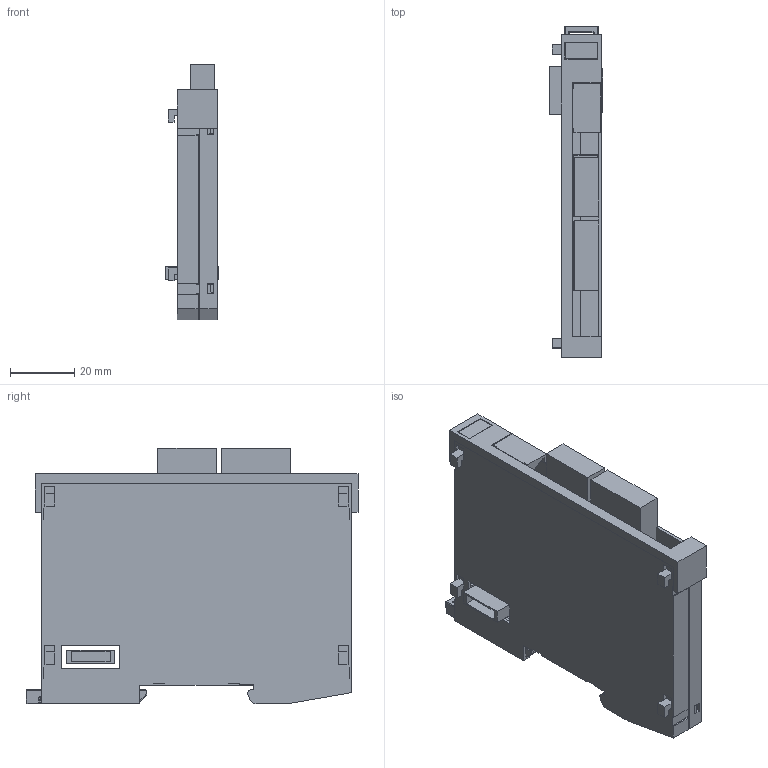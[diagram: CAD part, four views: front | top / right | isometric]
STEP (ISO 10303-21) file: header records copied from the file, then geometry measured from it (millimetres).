
FILE_DESCRIPTION (( 'STEP AP214' ), '1' );
FILE_NAME ('ISE021.STEP', '2015-08-10T14:24:49', ( 'SIGMATEK GmbH & Co KG' ), ( 'SIGMATEK GmbH & Co KG' ), 'SwSTEP 2.0', 'SolidWorks 2013', '' );
FILE_SCHEMA (( 'AUTOMOTIVE_DESIGN' ));
Length unit declared in the file: millimetre
Products named in the file (14): LP_ISE021; Dummy______________ 6pol Buchse; Dummy____________fmc_1.5 6pol; Dummy_4110262152 5pol Buchse; Dummy____________fmc_1.5 5pol 1952296; Dummy_4080225346 Erni Stift; Dummy_4080225345 Erni Buchse; Steckerabdeckung_Var 9; S-Dias Rasthaken 20130313; Schieber_f Suport; S-Dias Schale rechts_f Suport; S-Dias Schale links_f Suport; 4110251342_MF 10-5 MC CABUR_1854510000; ISE021
Assembly tree (13 placements, depth 3):
  ISE021
    4110251342_MF 10-5 MC CABUR_1854510000
    S-Dias Schale links_f Suport
    S-Dias Schale rechts_f Suport
    Schieber_f Suport
    S-Dias Rasthaken 20130313
    LP_ISE021
      Steckerabdeckung_Var 9
      Dummy_4080225345 Erni Buchse
      Dummy_4080225346 Erni Stift
      Dummy____________fmc_1.5 5pol 1952296
      Dummy_4110262152 5pol Buchse
      Dummy____________fmc_1.5 6pol
      Dummy______________ 6pol Buchse
Bounding box: 16.8 x 103.61 x 79.8 mm (x, y, z)
Volume: 28680.6 mm3; surface area: 43462.4 mm2
Topology: 12 solids, 12 shells, 833 faces, 2423 edges, 1604 vertices
Faces by surface type: plane 587, cylinder 135, bspline 55, cone 28, torus 15, sphere 13
Entity records: 32329 total; most frequent: CARTESIAN_POINT 7580, ORIENTED_EDGE 4804, DIRECTION 3779, EDGE_CURVE 2402, LINE 1735, VECTOR 1735, VERTEX_POINT 1596, AXIS2_PLACEMENT_3D 1022
